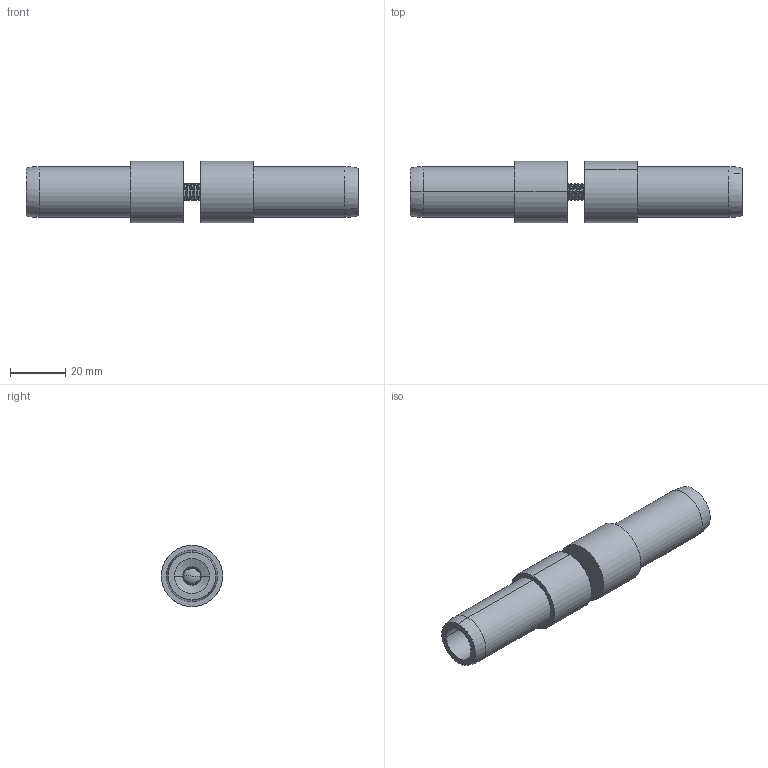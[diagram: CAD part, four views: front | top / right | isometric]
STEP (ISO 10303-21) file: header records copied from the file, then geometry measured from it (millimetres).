
FILE_DESCRIPTION (( 'STEP AP214' ), '1' );
FILE_NAME ('0.75 Inch Coupler Joint Kit.STEP', '2014-01-09T15:35:58', ( 'ydmin' ), ( 'Microsoft' ), 'SwSTEP 2.0', 'SolidWorks 2013', '' );
FILE_SCHEMA (( 'AUTOMOTIVE_DESIGN' ));
Length unit declared in the file: inch
Products named in the file (1): 0.75 Inch Coupler Joint Kit
Bounding box: 120.65 x 22.23 x 22.23 mm (x, y, z)
Volume: 25139.7 mm3; surface area: 14832.6 mm2
Topology: 5 solids, 5 shells, 272 faces, 566 edges, 305 vertices
Faces by surface type: cylinder 114, cone 113, plane 23, bspline 16, torus 4, sphere 2
Entity records: 20216 total; most frequent: CARTESIAN_POINT 11152, ORIENTED_EDGE 1128, DIRECTION 1108, EDGE_CURVE 564, AXIS2_PLACEMENT_3D 423, VERTEX_POINT 305, LENGTH_MEASURE_WITH_UNIT 279, DIMENSIONAL_EXPONENTS 279
